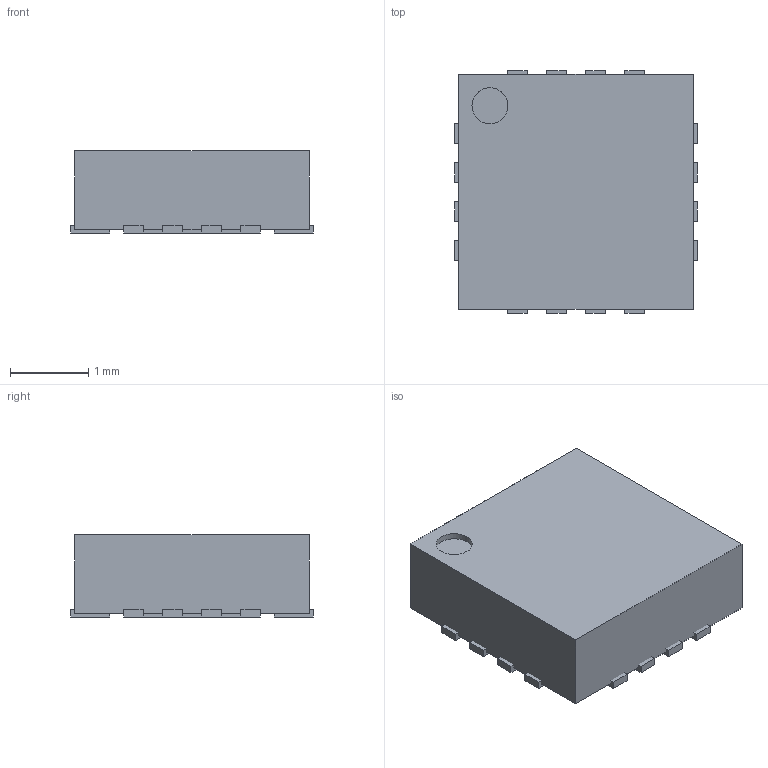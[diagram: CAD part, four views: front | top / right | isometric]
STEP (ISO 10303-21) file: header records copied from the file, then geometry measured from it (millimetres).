
FILE_DESCRIPTION(('FreeCAD Model'),'2;1');
FILE_NAME('Open CASCADE Shape Model','2026-10-15T00:26:03',('FreeCAD'),( 'FreeCAD'),'Open CASCADE STEP processor 7.8','FreeCAD','Unknown');
FILE_SCHEMA(('AUTOMOTIVE_DESIGN { 1 0 10303 214 1 1 1 1 }'));
Length unit declared in the file: millimetre
Products named in the file (1): Open CASCADE STEP translator 7.8 5
Bounding box: 3.1 x 3.1 x 1.05 mm (x, y, z)
Volume: 9.5 mm3; surface area: 42.8 mm2
Topology: 18 solids, 18 shells, 110 faces, 219 edges, 146 vertices
Faces by surface type: plane 109, cylinder 1
Full cylindrical faces by diameter (mm): 0.46 x1
Entity records: 2761 total; most frequent: CARTESIAN_POINT 476, DIRECTION 443, ORIENTED_EDGE 438, EDGE_CURVE 219, LINE 217, VECTOR 217, VERTEX_POINT 146, AXIS2_PLACEMENT_3D 113
